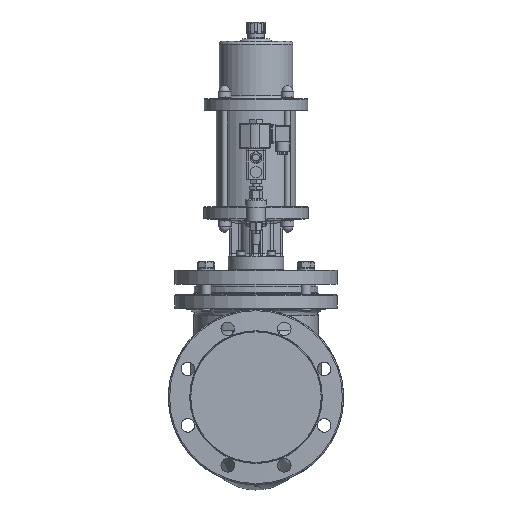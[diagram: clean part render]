
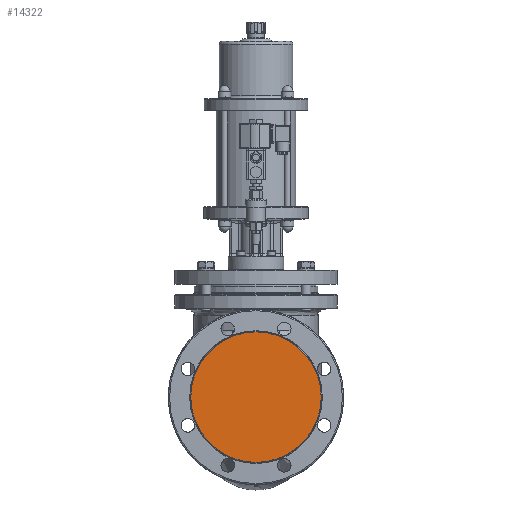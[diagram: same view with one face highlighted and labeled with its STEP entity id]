
A CAD part, left-side view. The second image highlights one B-rep face of the part: STEP entity #14322.
In plain terms, the highlighted planar face has unit normal (-1, 0, 0).
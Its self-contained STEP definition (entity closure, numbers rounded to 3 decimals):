
#14306=CARTESIAN_POINT('',(-240.,0.,0.));
#14307=DIRECTION('',(-1.0,0.0,0.0));
#14308=DIRECTION('',(0.0,0.0,-1.0));
#14309=AXIS2_PLACEMENT_3D('',#14306,#14307,#14308);
#14310=PLANE('',#14309);
#14311=CARTESIAN_POINT('',(-240.,0.,106.1));
#14312=VERTEX_POINT('',#14311);
#14313=CARTESIAN_POINT('',(-240.,0.,0.));
#14314=DIRECTION('',(1.0,0.0,0.0));
#14315=DIRECTION('',(0.0,0.0,1.0));
#14316=AXIS2_PLACEMENT_3D('',#14313,#14314,#14315);
#14317=CIRCLE('',#14316,106.1);
#14318=EDGE_CURVE('',#14312,#14312,#14317,.T.);
#14319=ORIENTED_EDGE('',*,*,#14318,.F.);
#14320=EDGE_LOOP('',(#14319));
#14321=FACE_OUTER_BOUND('',#14320,.T.);
#14322=ADVANCED_FACE('',(#14321),#14310,.T.);
